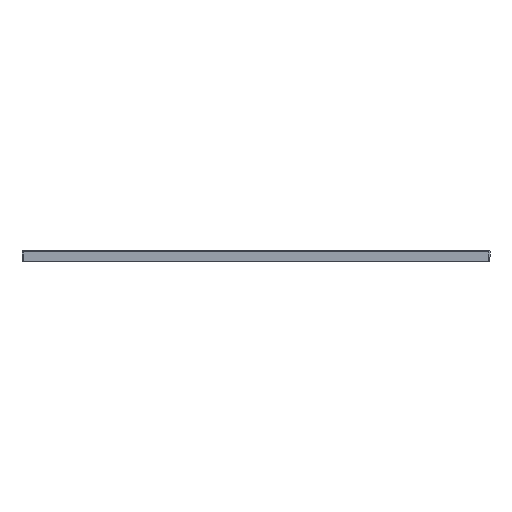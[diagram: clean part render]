
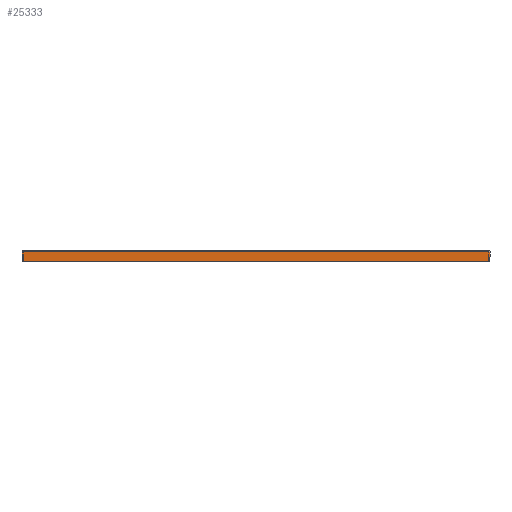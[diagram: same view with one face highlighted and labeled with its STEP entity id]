
A CAD part, front view. The second image highlights one B-rep face of the part: STEP entity #25333.
In plain terms, the highlighted planar face has unit normal (0, -1, 0).
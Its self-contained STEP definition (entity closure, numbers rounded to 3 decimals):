
#347 = VECTOR ( 'NONE', #27516, 1000. ) ;
#651 = PLANE ( 'NONE',  #11729 ) ;
#1051 = FACE_OUTER_BOUND ( 'NONE', #14126, .T. ) ;
#1134 = ORIENTED_EDGE ( 'NONE', *, *, #7107, .T. ) ;
#2840 = EDGE_CURVE ( 'NONE', #16039, #5249, #6826, .T. ) ;
#3165 = VECTOR ( 'NONE', #7900, 1000. ) ;
#3573 = VECTOR ( 'NONE', #19544, 1000. ) ;
#4735 = ORIENTED_EDGE ( 'NONE', *, *, #25329, .T. ) ;
#5249 = VERTEX_POINT ( 'NONE', #23040 ) ;
#5554 = DIRECTION ( 'NONE',  ( 0., 1., 0. ) ) ;
#6826 = LINE ( 'NONE', #20326, #347 ) ;
#6854 = EDGE_CURVE ( 'NONE', #23458, #5249, #29010, .T. ) ;
#7107 = EDGE_CURVE ( 'NONE', #23458, #7788, #15988, .T. ) ;
#7788 = VERTEX_POINT ( 'NONE', #10454 ) ;
#7900 = DIRECTION ( 'NONE',  ( -1., 0., 0. ) ) ;
#8299 = LINE ( 'NONE', #15081, #19486 ) ;
#9890 = CARTESIAN_POINT ( 'NONE',  ( 340., -954., -0.5 ) ) ;
#10237 = CARTESIAN_POINT ( 'NONE',  ( -340., -954., -14.5 ) ) ;
#10276 = CARTESIAN_POINT ( 'NONE',  ( -340., -954., -0.5 ) ) ;
#10454 = CARTESIAN_POINT ( 'NONE',  ( -340., -954., -0.5 ) ) ;
#11729 = AXIS2_PLACEMENT_3D ( 'NONE', #19865, #5554, #22267 ) ;
#11813 = ORIENTED_EDGE ( 'NONE', *, *, #2840, .T. ) ;
#14126 = EDGE_LOOP ( 'NONE', ( #30973, #1134, #4735, #11813 ) ) ;
#14848 = CARTESIAN_POINT ( 'NONE',  ( 340., -954., 1.5 ) ) ;
#15081 = CARTESIAN_POINT ( 'NONE',  ( -340., -954., 1.5 ) ) ;
#15988 = LINE ( 'NONE', #10276, #3165 ) ;
#16039 = VERTEX_POINT ( 'NONE', #10237 ) ;
#17488 = DIRECTION ( 'NONE',  ( 0., 0., -1. ) ) ;
#19486 = VECTOR ( 'NONE', #17488, 1000. ) ;
#19544 = DIRECTION ( 'NONE',  ( 0., 0., -1. ) ) ;
#19865 = CARTESIAN_POINT ( 'NONE',  ( -340., -954., 1.5 ) ) ;
#20326 = CARTESIAN_POINT ( 'NONE',  ( -340., -954., -14.5 ) ) ;
#22267 = DIRECTION ( 'NONE',  ( 0., 0., 1. ) ) ;
#23040 = CARTESIAN_POINT ( 'NONE',  ( 340., -954., -14.5 ) ) ;
#23458 = VERTEX_POINT ( 'NONE', #9890 ) ;
#25329 = EDGE_CURVE ( 'NONE', #7788, #16039, #8299, .T. ) ;
#25333 = ADVANCED_FACE ( 'NONE', ( #1051 ), #651, .F. ) ;
#27516 = DIRECTION ( 'NONE',  ( 1., 0., 0. ) ) ;
#29010 = LINE ( 'NONE', #14848, #3573 ) ;
#30973 = ORIENTED_EDGE ( 'NONE', *, *, #6854, .F. ) ;
